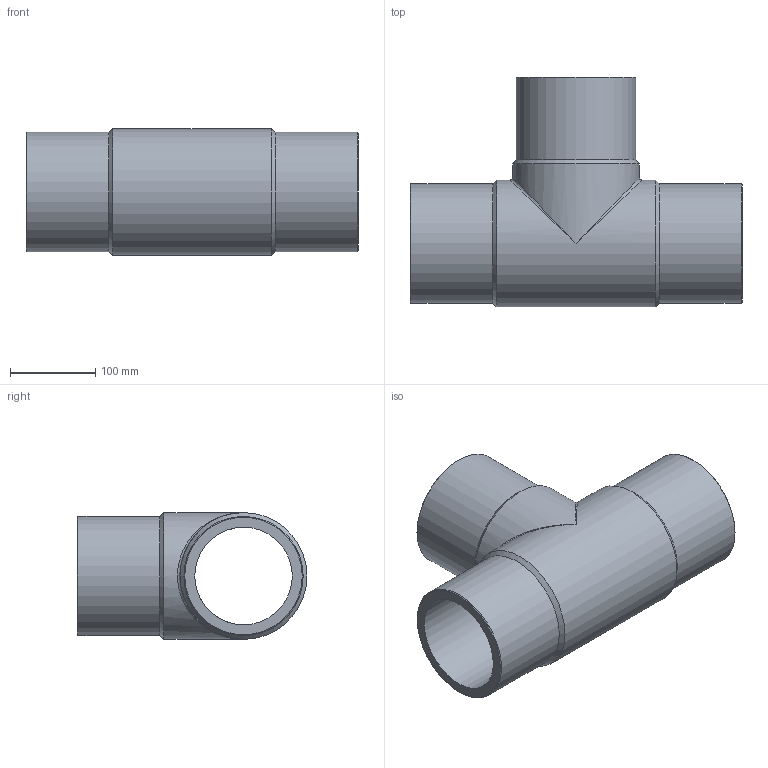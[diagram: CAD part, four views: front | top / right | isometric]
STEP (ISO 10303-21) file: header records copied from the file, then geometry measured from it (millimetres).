
FILE_DESCRIPTION(/* description */ ('Unknown'),/* implementation_level */ '2;1');
FILE_NAME(/* name */ 'TP140C',/* time_stamp */ '2021-08-10T17:46:56+02:00',/* author */ ('Unknown'),/* organization */ ('Unknown'),/* preprocessor_version */ 'ST-DEVELOPER v16.7',/* originating_system */ 'Solid Edge',/* authorisation */ 'Unknown');
FILE_SCHEMA (('AUTOMOTIVE_DESIGN {1 0 10303 214 3 1 1}'));
Length unit declared in the file: millimetre
Products named in the file (1): TP140C
Bounding box: 390 x 270 x 149 mm (x, y, z)
Volume: 2958656.3 mm3; surface area: 422334.4 mm2
Topology: 1 solids, 1 shells, 18 faces, 44 edges, 23 vertices
Faces by surface type: cylinder 7, cone 6, plane 3, bspline 2
Full cylindrical faces by diameter (mm): 114.6 x2, 140 x3, 149 x2
Entity records: 516 total; most frequent: CARTESIAN_POINT 159, DIRECTION 76, ORIENTED_EDGE 42, AXIS2_PLACEMENT_3D 38, EDGE_LOOP 36, FACE_BOUND 36, EDGE_CURVE 21, VERTEX_POINT 19
